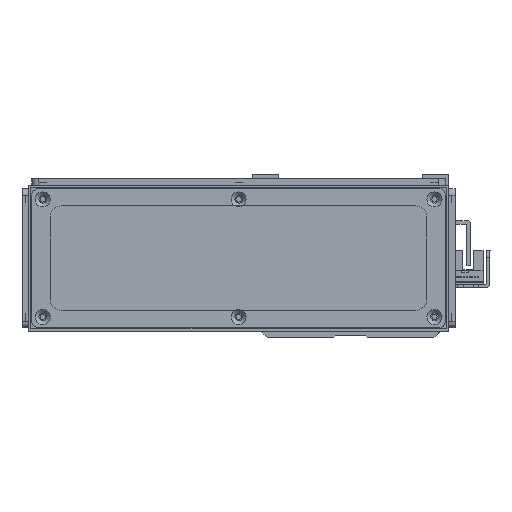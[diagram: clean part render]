
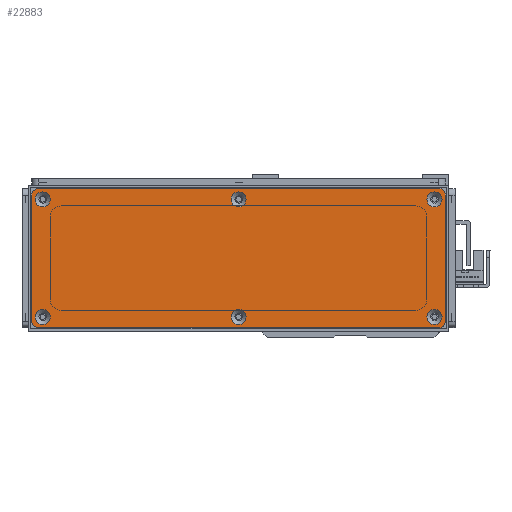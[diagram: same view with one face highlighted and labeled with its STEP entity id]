
A CAD part, left-side view. The second image highlights one B-rep face of the part: STEP entity #22883.
In plain terms, the highlighted planar face has unit normal (-1, 0, 0) as drawn and (0, 0, 1) by its records, which use the part's own axes.
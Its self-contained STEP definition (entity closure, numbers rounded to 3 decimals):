
#914=FACE_BOUND('',#4404,.T.);
#915=FACE_BOUND('',#4405,.T.);
#916=FACE_BOUND('',#4406,.T.);
#917=FACE_BOUND('',#4407,.T.);
#918=FACE_BOUND('',#4408,.T.);
#919=FACE_BOUND('',#4409,.T.);
#1482=PLANE('',#25715);
#2702=FACE_OUTER_BOUND('',#4403,.T.);
#4403=EDGE_LOOP('',(#20977,#20978,#20979,#20980,#20981,#20982,#20983,#20984));
#4404=EDGE_LOOP('',(#20985));
#4405=EDGE_LOOP('',(#20986));
#4406=EDGE_LOOP('',(#20987));
#4407=EDGE_LOOP('',(#20988));
#4408=EDGE_LOOP('',(#20989));
#4409=EDGE_LOOP('',(#20990));
#6296=LINE('',#39890,#8186);
#6299=LINE('',#39898,#8189);
#6302=LINE('',#39906,#8192);
#6305=LINE('',#39913,#8195);
#8186=VECTOR('',#32475,10.);
#8189=VECTOR('',#32484,10.);
#8192=VECTOR('',#32493,10.);
#8195=VECTOR('',#32502,10.);
#9384=CIRCLE('',#25669,3.45);
#9387=CIRCLE('',#25674,3.45);
#9390=CIRCLE('',#25679,3.45);
#9393=CIRCLE('',#25684,3.45);
#9396=CIRCLE('',#25689,3.45);
#9399=CIRCLE('',#25694,3.45);
#9406=CIRCLE('',#25704,3.);
#9407=CIRCLE('',#25707,3.);
#9408=CIRCLE('',#25710,3.);
#9409=CIRCLE('',#25713,3.);
#11485=VERTEX_POINT('',#39806);
#11488=VERTEX_POINT('',#39816);
#11491=VERTEX_POINT('',#39826);
#11494=VERTEX_POINT('',#39836);
#11497=VERTEX_POINT('',#39846);
#11500=VERTEX_POINT('',#39856);
#11511=VERTEX_POINT('',#39883);
#11512=VERTEX_POINT('',#39885);
#11513=VERTEX_POINT('',#39889);
#11514=VERTEX_POINT('',#39893);
#11515=VERTEX_POINT('',#39897);
#11516=VERTEX_POINT('',#39901);
#11517=VERTEX_POINT('',#39905);
#11518=VERTEX_POINT('',#39909);
#14627=EDGE_CURVE('',#11485,#11485,#9384,.T.);
#14632=EDGE_CURVE('',#11488,#11488,#9387,.T.);
#14637=EDGE_CURVE('',#11491,#11491,#9390,.T.);
#14642=EDGE_CURVE('',#11494,#11494,#9393,.T.);
#14647=EDGE_CURVE('',#11497,#11497,#9396,.T.);
#14652=EDGE_CURVE('',#11500,#11500,#9399,.T.);
#14666=EDGE_CURVE('',#11512,#11511,#9406,.T.);
#14668=EDGE_CURVE('',#11513,#11512,#6296,.T.);
#14670=EDGE_CURVE('',#11514,#11513,#9407,.T.);
#14672=EDGE_CURVE('',#11515,#11514,#6299,.T.);
#14674=EDGE_CURVE('',#11516,#11515,#9408,.T.);
#14676=EDGE_CURVE('',#11517,#11516,#6302,.T.);
#14678=EDGE_CURVE('',#11518,#11517,#9409,.T.);
#14680=EDGE_CURVE('',#11511,#11518,#6305,.T.);
#20977=ORIENTED_EDGE('',*,*,#14680,.T.);
#20978=ORIENTED_EDGE('',*,*,#14678,.T.);
#20979=ORIENTED_EDGE('',*,*,#14676,.T.);
#20980=ORIENTED_EDGE('',*,*,#14674,.T.);
#20981=ORIENTED_EDGE('',*,*,#14672,.T.);
#20982=ORIENTED_EDGE('',*,*,#14670,.T.);
#20983=ORIENTED_EDGE('',*,*,#14668,.T.);
#20984=ORIENTED_EDGE('',*,*,#14666,.T.);
#20985=ORIENTED_EDGE('',*,*,#14627,.T.);
#20986=ORIENTED_EDGE('',*,*,#14632,.T.);
#20987=ORIENTED_EDGE('',*,*,#14637,.T.);
#20988=ORIENTED_EDGE('',*,*,#14642,.T.);
#20989=ORIENTED_EDGE('',*,*,#14647,.T.);
#20990=ORIENTED_EDGE('',*,*,#14652,.T.);
#22883=ADVANCED_FACE('',(#2702,#914,#915,#916,#917,#918,#919),#1482,.T.);
#25669=AXIS2_PLACEMENT_3D('',#39807,#32383,#32384);
#25674=AXIS2_PLACEMENT_3D('',#39817,#32395,#32396);
#25679=AXIS2_PLACEMENT_3D('',#39827,#32407,#32408);
#25684=AXIS2_PLACEMENT_3D('',#39837,#32419,#32420);
#25689=AXIS2_PLACEMENT_3D('',#39847,#32431,#32432);
#25694=AXIS2_PLACEMENT_3D('',#39857,#32443,#32444);
#25704=AXIS2_PLACEMENT_3D('',#39886,#32470,#32471);
#25707=AXIS2_PLACEMENT_3D('',#39894,#32479,#32480);
#25710=AXIS2_PLACEMENT_3D('',#39902,#32488,#32489);
#25713=AXIS2_PLACEMENT_3D('',#39910,#32497,#32498);
#25715=AXIS2_PLACEMENT_3D('',#39914,#32503,#32504);
#32383=DIRECTION('center_axis',(0.,0.,-1.));
#32384=DIRECTION('ref_axis',(1.,0.,0.));
#32395=DIRECTION('center_axis',(0.,0.,-1.));
#32396=DIRECTION('ref_axis',(1.,0.,0.));
#32407=DIRECTION('center_axis',(0.,0.,-1.));
#32408=DIRECTION('ref_axis',(1.,0.,0.));
#32419=DIRECTION('center_axis',(0.,0.,-1.));
#32420=DIRECTION('ref_axis',(1.,0.,0.));
#32431=DIRECTION('center_axis',(0.,0.,-1.));
#32432=DIRECTION('ref_axis',(1.,0.,0.));
#32443=DIRECTION('center_axis',(0.,0.,-1.));
#32444=DIRECTION('ref_axis',(1.,0.,0.));
#32470=DIRECTION('center_axis',(0.,0.,1.));
#32471=DIRECTION('ref_axis',(0.,1.,0.));
#32475=DIRECTION('',(-1.,0.,0.));
#32479=DIRECTION('center_axis',(0.,0.,1.));
#32480=DIRECTION('ref_axis',(1.,0.,0.));
#32484=DIRECTION('',(0.,1.,0.));
#32488=DIRECTION('center_axis',(0.,0.,1.));
#32489=DIRECTION('ref_axis',(0.,-1.,0.));
#32493=DIRECTION('',(1.,0.,0.));
#32497=DIRECTION('center_axis',(0.,0.,1.));
#32498=DIRECTION('ref_axis',(-1.,0.,0.));
#32502=DIRECTION('',(0.,-1.,0.));
#32503=DIRECTION('center_axis',(0.,0.,1.));
#32504=DIRECTION('ref_axis',(1.,0.,0.));
#39806=CARTESIAN_POINT('',(-3.45,27.,1.5));
#39807=CARTESIAN_POINT('Origin',(0.,27.,1.5));
#39816=CARTESIAN_POINT('',(86.55,-27.,1.5));
#39817=CARTESIAN_POINT('Origin',(90.,-27.,1.5));
#39826=CARTESIAN_POINT('',(-93.45,27.,1.5));
#39827=CARTESIAN_POINT('Origin',(-90.,27.,1.5));
#39836=CARTESIAN_POINT('',(86.55,27.,1.5));
#39837=CARTESIAN_POINT('Origin',(90.,27.,1.5));
#39846=CARTESIAN_POINT('',(-93.45,-27.,1.5));
#39847=CARTESIAN_POINT('Origin',(-90.,-27.,1.5));
#39856=CARTESIAN_POINT('',(-3.45,-27.,1.5));
#39857=CARTESIAN_POINT('Origin',(0.,-27.,1.5));
#39883=CARTESIAN_POINT('',(-95.,29.,1.5));
#39885=CARTESIAN_POINT('',(-92.,32.,1.5));
#39886=CARTESIAN_POINT('Origin',(-92.,29.,1.5));
#39889=CARTESIAN_POINT('',(92.,32.,1.5));
#39890=CARTESIAN_POINT('',(92.,32.,1.5));
#39893=CARTESIAN_POINT('',(95.,29.,1.5));
#39894=CARTESIAN_POINT('Origin',(92.,29.,1.5));
#39897=CARTESIAN_POINT('',(95.,-29.,1.5));
#39898=CARTESIAN_POINT('',(95.,-29.,1.5));
#39901=CARTESIAN_POINT('',(92.,-32.,1.5));
#39902=CARTESIAN_POINT('Origin',(92.,-29.,1.5));
#39905=CARTESIAN_POINT('',(-92.,-32.,1.5));
#39906=CARTESIAN_POINT('',(-92.,-32.,1.5));
#39909=CARTESIAN_POINT('',(-95.,-29.,1.5));
#39910=CARTESIAN_POINT('Origin',(-92.,-29.,1.5));
#39913=CARTESIAN_POINT('',(-95.,29.,1.5));
#39914=CARTESIAN_POINT('Origin',(0.,0.,
1.5));
